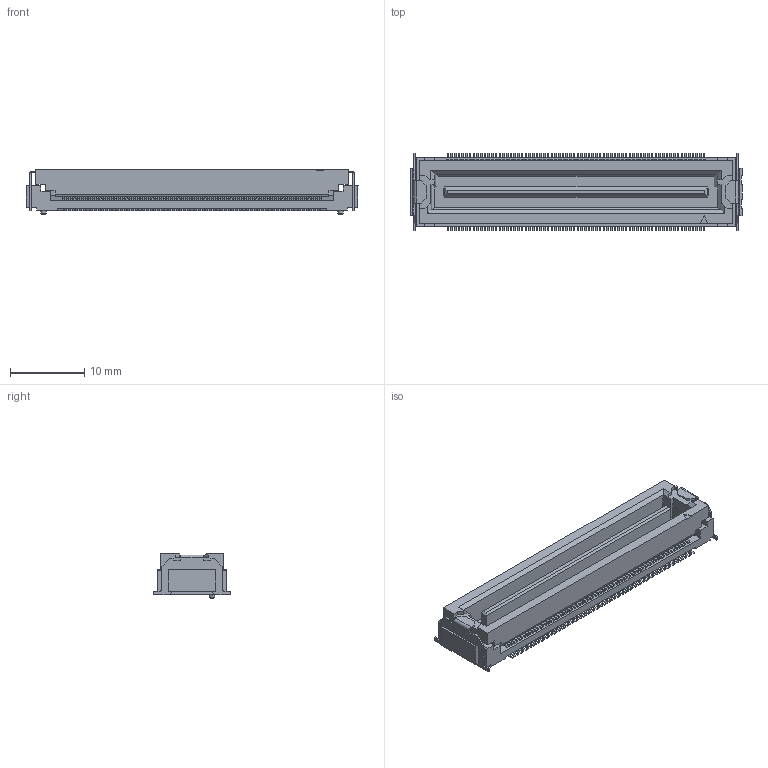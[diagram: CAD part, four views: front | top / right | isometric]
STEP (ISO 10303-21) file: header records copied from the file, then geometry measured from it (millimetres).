
FILE_DESCRIPTION(('Creo Elements/Direct Modeling STEP Export'),'2;1');
FILE_NAME('P3D071_DT01-140S-T.stp','2017-08-11T 9:50:21',(''),(''),'Creo Elements/Direct Modeling STEP processor for AP214 (Solid Model)','Creo Elements/Direct Modeling 19.0F 14-Feb-2017 (C) Parametric Technology GmbH','');
FILE_SCHEMA(('AUTOMOTIVE_DESIGN { 1 0 10303 214 1 1 1 1 }'));
Products named in the file (2): DT01-140S-T
Assembly tree (1 placements, depth 2):
  DT01-140S-T
    DT01-140S-T
Bounding box: 44.7 x 10.38 x 5.95 mm (x, y, z)
Volume: 1297.2 mm3; surface area: 2741 mm2
Topology: 1 solids, 1 shells, 4042 faces, 11107 edges, 7210 vertices
Faces by surface type: plane 3178, cylinder 860, cone 4
Entity records: 125203 total; most frequent: ORIENTED_EDGE 22214, CARTESIAN_POINT 21813, DIRECTION 20078, EDGE_CURVE 11107, VECTOR 9128, LINE 9128, VERTEX_POINT 7210, AXIS2_PLACEMENT_3D 5475
